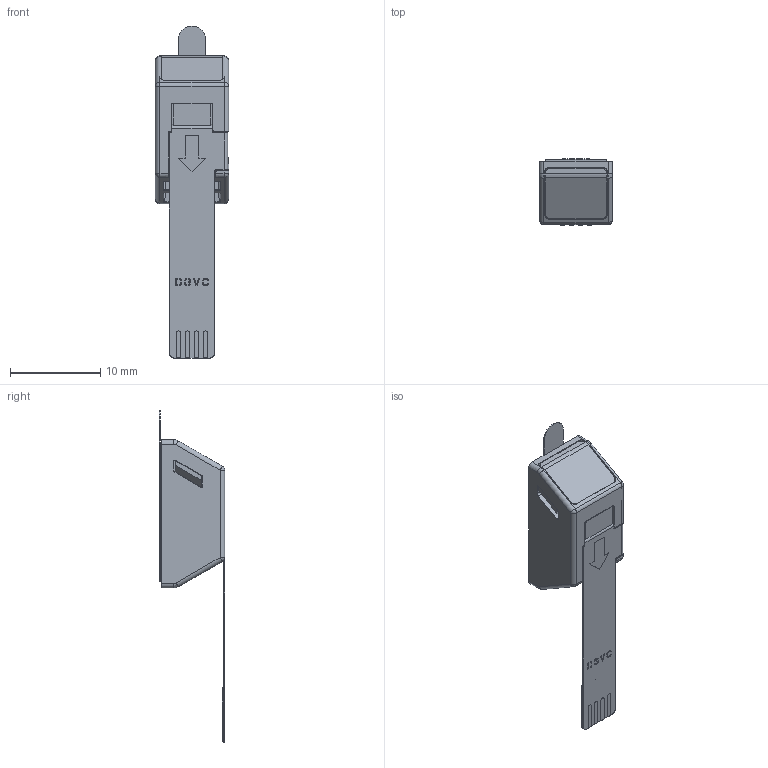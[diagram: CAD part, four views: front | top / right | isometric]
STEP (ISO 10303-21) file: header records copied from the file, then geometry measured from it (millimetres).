
FILE_DESCRIPTION((''),'2;1');
FILE_NAME('SOUNDSKIRT_MIC_ASM','2024-09-12T14:21:09',('ts'),(''),'CREO PARAMETRIC BY PTC INC, 2018050','CREO PARAMETRIC BY PTC INC, 2018050','');
FILE_SCHEMA(('CONFIG_CONTROL_DESIGN','SHAPE_APPEARANCE_LAYERS_GROUPS'));
Products named in the file (16): SOUNDSKIRT_MIC_GASKET; SOUNDSKIRT_MIC_SILICON; SOUNDSKIRT_MIC_FPCA_FPC; SOUNDSKIRT_MIC_FPCA_MEMS_1; SOUNDSKIRT_MIC_FPCA_MEMS_2; SOUNDSKIRT_MIC_FPCA_SUS301_1; SOUNDSKIRT_MIC_FPCA_SUS301_2; SOUNDSKIRT_MIC_FPCA_SUS301_3; SOUNDSKIRT_MIC_FPCA_0402; SOUNDSKIRT_MIC_FPCA_BJ_1; SOUNDSKIRT_MIC_FPCA_ASM; SOUNDSKIRT_MIC_BJ_BJ; SOUNDSKIRT_MIC_BJ_TYW; SOUNDSKIRT_MIC_BJ_LXZ; SOUNDSKIRT_MIC_BJ_ASM; SOUNDSKIRT_MIC_ASM
Assembly tree (16 placements, depth 3):
  SOUNDSKIRT_MIC_ASM
    SOUNDSKIRT_MIC_GASKET
    SOUNDSKIRT_MIC_SILICON
    SOUNDSKIRT_MIC_FPCA_ASM
      SOUNDSKIRT_MIC_FPCA_FPC
      SOUNDSKIRT_MIC_FPCA_MEMS_1
      SOUNDSKIRT_MIC_FPCA_MEMS_2
      SOUNDSKIRT_MIC_FPCA_SUS301_1
      SOUNDSKIRT_MIC_FPCA_SUS301_2
      SOUNDSKIRT_MIC_FPCA_SUS301_3
      SOUNDSKIRT_MIC_FPCA_0402
      SOUNDSKIRT_MIC_FPCA_BJ_1
    SOUNDSKIRT_MIC_BJ_ASM
      SOUNDSKIRT_MIC_BJ_BJ  x2
      SOUNDSKIRT_MIC_BJ_TYW
      SOUNDSKIRT_MIC_BJ_LXZ
Bounding box: 8.1 x 7.25 x 36.76 mm (x, y, z)
Volume: 697.5 mm3; surface area: 2616.1 mm2
Topology: 14 solids, 14 shells, 1763 faces, 4810 edges, 3122 vertices
Faces by surface type: cylinder 1110, plane 533, bspline 70, torus 22, sphere 18, cone 10
Entity records: 79540 total; most frequent: CARTESIAN_POINT 13560, DIRECTION 10199, ORIENTED_EDGE 9550, PRESENTATION_STYLE_ASSIGNMENT 4831, EDGE_CURVE 4775, STYLED_ITEM 4473, CURVE_STYLE 4337, AXIS2_PLACEMENT_3D 3877
